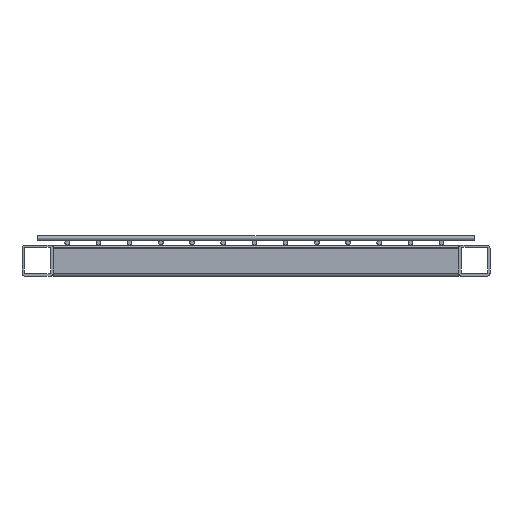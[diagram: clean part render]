
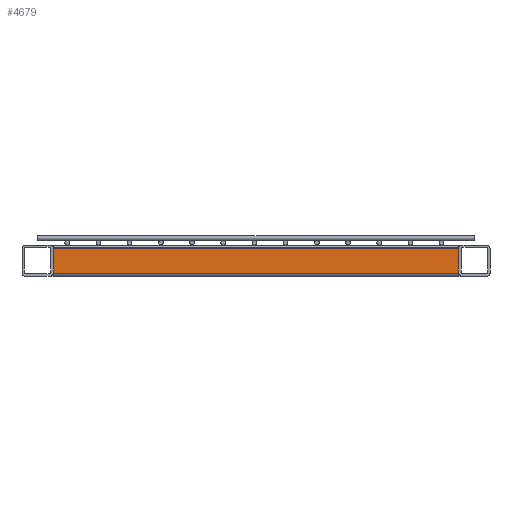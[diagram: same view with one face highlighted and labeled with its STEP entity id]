
A CAD part, front view. The second image highlights one B-rep face of the part: STEP entity #4679.
In plain terms, the highlighted planar face has unit normal (0, -1, 0).
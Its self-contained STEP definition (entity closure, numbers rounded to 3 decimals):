
#55 = DIRECTION ( 'NONE',  ( 0., 0., -1. ) ) ;
#63 = VECTOR ( 'NONE', #55, 1000. ) ;
#75 = ORIENTED_EDGE ( 'NONE', *, *, #3351, .F. ) ;
#327 = DIRECTION ( 'NONE',  ( 0., 1., 0. ) ) ;
#424 = AXIS2_PLACEMENT_3D ( 'NONE', #5188, #327, #5087 ) ;
#687 = CARTESIAN_POINT ( 'NONE',  ( -130., -300., -8. ) ) ;
#695 = FACE_OUTER_BOUND ( 'NONE', #2276, .T. ) ;
#775 = PLANE ( 'NONE',  #424 ) ;
#845 = DIRECTION ( 'NONE',  ( -1., 0., 0. ) ) ;
#943 = VERTEX_POINT ( 'NONE', #2878 ) ;
#1023 = VECTOR ( 'NONE', #1900, 1000. ) ;
#1054 = CARTESIAN_POINT ( 'NONE',  ( -130., -300., 8. ) ) ;
#1078 = LINE ( 'NONE', #2388, #1023 ) ;
#1588 = ORIENTED_EDGE ( 'NONE', *, *, #1825, .T. ) ;
#1661 = CARTESIAN_POINT ( 'NONE',  ( 150., -300., 8. ) ) ;
#1825 = EDGE_CURVE ( 'NONE', #943, #5136, #4452, .T. ) ;
#1900 = DIRECTION ( 'NONE',  ( 0., 0., 1. ) ) ;
#2264 = ORIENTED_EDGE ( 'NONE', *, *, #4219, .F. ) ;
#2276 = EDGE_LOOP ( 'NONE', ( #2784, #75, #2264, #1588 ) ) ;
#2380 = CARTESIAN_POINT ( 'NONE',  ( 130., -300., -8. ) ) ;
#2388 = CARTESIAN_POINT ( 'NONE',  ( -130., -300., -8. ) ) ;
#2436 = EDGE_CURVE ( 'NONE', #5162, #5136, #1078, .T. ) ;
#2458 = CARTESIAN_POINT ( 'NONE',  ( 150., -300., -8. ) ) ;
#2784 = ORIENTED_EDGE ( 'NONE', *, *, #2436, .F. ) ;
#2878 = CARTESIAN_POINT ( 'NONE',  ( 130., -300., 8. ) ) ;
#3351 = EDGE_CURVE ( 'NONE', #4358, #5162, #4934, .T. ) ;
#3643 = DIRECTION ( 'NONE',  ( -1., 0., 0. ) ) ;
#3654 = CARTESIAN_POINT ( 'NONE',  ( 130., -300., -8. ) ) ;
#4219 = EDGE_CURVE ( 'NONE', #943, #4358, #5207, .T. ) ;
#4358 = VERTEX_POINT ( 'NONE', #2380 ) ;
#4440 = VECTOR ( 'NONE', #3643, 1000. ) ;
#4452 = LINE ( 'NONE', #1661, #5133 ) ;
#4679 = ADVANCED_FACE ( 'NONE', ( #695 ), #775, .F. ) ;
#4934 = LINE ( 'NONE', #2458, #4440 ) ;
#5087 = DIRECTION ( 'NONE',  ( 0., 0., 1. ) ) ;
#5133 = VECTOR ( 'NONE', #845, 1000. ) ;
#5136 = VERTEX_POINT ( 'NONE', #1054 ) ;
#5162 = VERTEX_POINT ( 'NONE', #687 ) ;
#5188 = CARTESIAN_POINT ( 'NONE',  ( 150., -300., -8. ) ) ;
#5207 = LINE ( 'NONE', #3654, #63 ) ;
